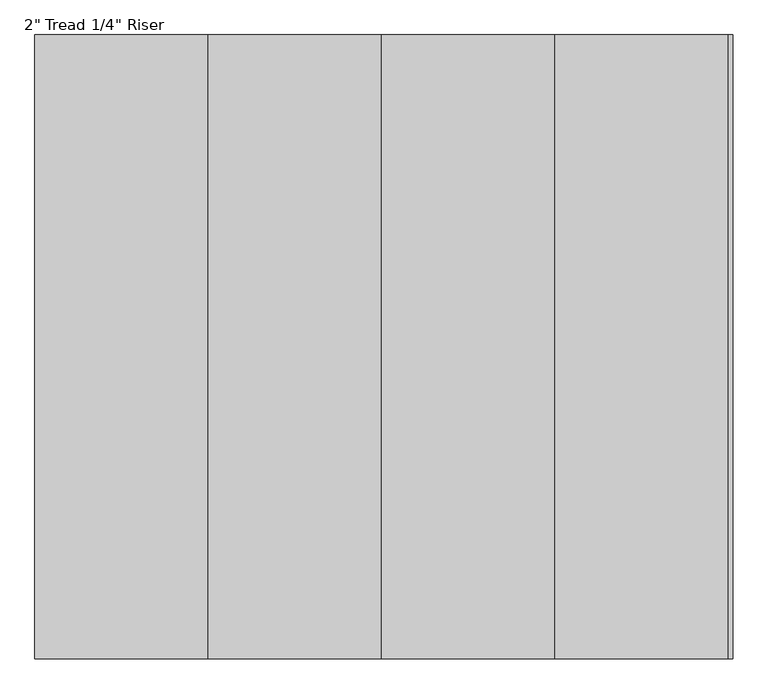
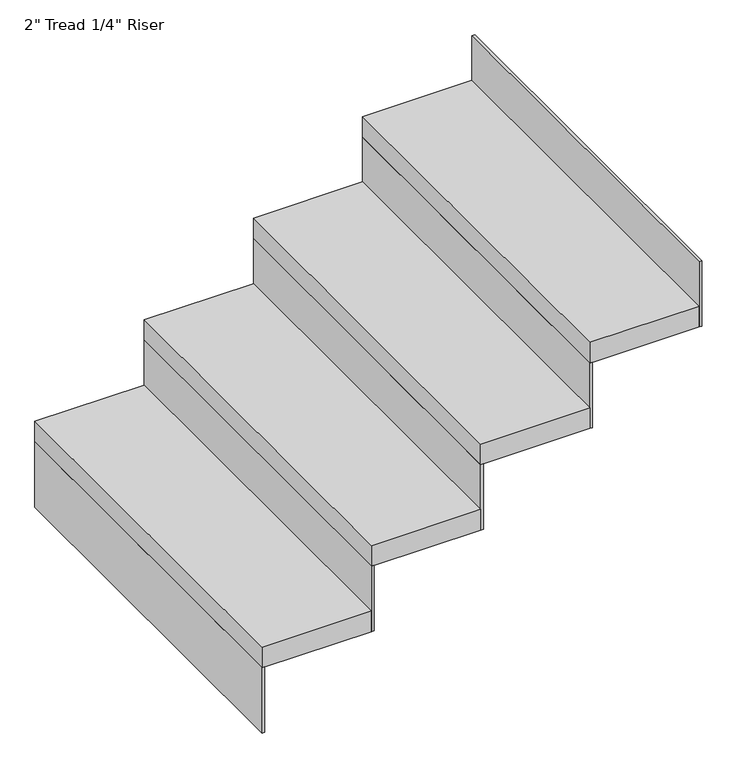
"""IFC4 building model written with IfcOpenShell, lengths in millimetres: stair flight geometry."""

from ifc_helpers import new_model, si_unit, frame, origin, place, context, project, spatial, polyline, outline, extrude, source, transform, mapped, element, save


def stair_flight_b48d4b94(model_context):
    return source(origin(), model_context, "Body", "SweptSolid", [
        extrude(outline(polyline([(114283.3788146, -35593.481782), (114277.0288146, -35593.481782), (114277.0288146, -34679.081782), (114283.3788146, -34679.081782), (114283.3788146, -35593.481782)])), frame((0.0, 0.0, 2195.0947368), z_axis=(0.0, 0.0, 1.0), x_axis=(1.0, 0.0, 0.0)), (0.0, 0.0, 1.0), 160.4210526),
        extrude(outline(polyline([(114531.0288146, -34679.081782), (114531.0288146, -35593.481782), (114277.0288146, -35593.481782), (114277.0288146, -34679.081782), (114531.0288146, -34679.081782)])), frame((0.0, 0.0, 2355.5157895), z_axis=(0.0, 0.0, 1.0), x_axis=(1.0, 0.0, 0.0)), (0.0, 0.0, 1.0), 50.8),
        extrude(outline(polyline([(114537.3788146, -35593.481782), (114531.0288146, -35593.481782), (114531.0288146, -34679.081782), (114537.3788146, -34679.081782), (114537.3788146, -35593.481782)])), frame((0.0, 0.0, 2355.5157895), z_axis=(0.0, 0.0, 1.0), x_axis=(1.0, 0.0, 0.0)), (0.0, 0.0, 1.0), 160.4210526),
        extrude(outline(polyline([(114785.0288146, -34679.081782), (114785.0288146, -35593.481782), (114531.0288146, -35593.481782), (114531.0288146, -34679.081782), (114785.0288146, -34679.081782)])), frame((0.0, 0.0, 2515.9368421), z_axis=(0.0, 0.0, 1.0), x_axis=(1.0, 0.0, 0.0)), (0.0, 0.0, 1.0), 50.8),
        extrude(outline(polyline([(114791.3788146, -35593.481782), (114785.0288146, -35593.481782), (114785.0288146, -34679.081782), (114791.3788146, -34679.081782), (114791.3788146, -35593.481782)])), frame((0.0, 0.0, 2515.9368421), z_axis=(0.0, 0.0, 1.0), x_axis=(1.0, 0.0, 0.0)), (0.0, 0.0, 1.0), 160.4210526),
        extrude(outline(polyline([(115039.0288146, -34679.081782), (115039.0288146, -35593.481782), (114785.0288146, -35593.481782), (114785.0288146, -34679.081782), (115039.0288146, -34679.081782)])), frame((0.0, 0.0, 2676.3578947), z_axis=(0.0, 0.0, 1.0), x_axis=(1.0, 0.0, 0.0)), (0.0, 0.0, 1.0), 50.8),
        extrude(outline(polyline([(115045.3788146, -35593.481782), (115039.0288146, -35593.481782), (115039.0288146, -34679.081782), (115045.3788146, -34679.081782), (115045.3788146, -35593.481782)])), frame((0.0, 0.0, 2676.3578947), z_axis=(0.0, 0.0, 1.0), x_axis=(1.0, 0.0, 0.0)), (0.0, 0.0, 1.0), 160.4210526),
        extrude(outline(polyline([(115299.3788146, -35593.481782), (115293.0288146, -35593.481782), (115293.0288146, -34679.081782), (115299.3788146, -34679.081782), (115299.3788146, -35593.481782)])), frame((0.0, 0.0, 2836.7789474), z_axis=(0.0, 0.0, 1.0), x_axis=(1.0, 0.0, 0.0)), (0.0, 0.0, 1.0), 160.4210526),
        extrude(outline(polyline([(115293.0288146, -34679.081782), (115293.0288146, -35593.481782), (115039.0288146, -35593.481782), (115039.0288146, -34679.081782), (115293.0288146, -34679.081782)])), frame((0.0, 0.0, 2836.7789474), z_axis=(0.0, 0.0, 1.0), x_axis=(1.0, 0.0, 0.0)), (0.0, 0.0, 1.0), 50.8),
    ])


if __name__ == "__main__":
    model = new_model("IFC4")
    model_context = context("Model", 3, world=origin())
    ifc_project = project(units=[si_unit("LENGTHUNIT", "METRE", prefix="MILLI")], contexts=[model_context])
    site = spatial("IfcSite", under=ifc_project)
    building = spatial("IfcBuilding", under=site)
    placement = place(None, origin())
    stair_flight_shape = stair_flight_b48d4b94(model_context)
    element("IfcStairFlight", 1, ObjectType="2\" Tread 1/4\" Riser", at=placement, inside=building, context=model_context, shape_type="MappedRepresentation", body=[
        mapped(stair_flight_shape, transform((0.0, 0.0, 0.0), x_axis=(1.0, 0.0, 0.0), y_axis=(0.0, 1.0, 0.0), z_axis=(0.0, 0.0, 1.0))),
    ])
    save(model, "model.ifc")
